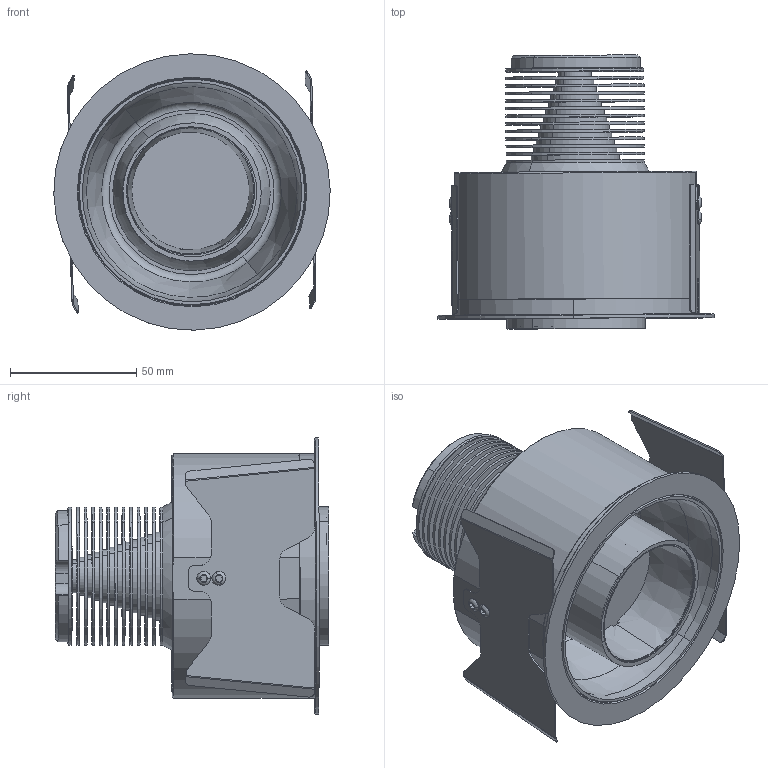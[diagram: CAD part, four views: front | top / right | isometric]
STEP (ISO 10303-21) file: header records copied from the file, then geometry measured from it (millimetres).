
FILE_DESCRIPTION (( 'STEP AP214' ), '1' );
FILE_NAME ('Saturno MR per BIM.STEP', '2024-02-05T07:46:48', ( '' ), ( '' ), 'SwSTEP 2.0', 'SolidWorks 2023', '' );
FILE_SCHEMA (( 'AUTOMOTIVE_DESIGN' ));
Length unit declared in the file: millimetre
Products named in the file (8): 105566--; Vite M3x3 TBEI; Saturno MR per BIM; 105297--REV B; 105565--; CORPO CENTRALE SATURNO RF-MR; 105509--; 105568--
Assembly tree (11 placements, depth 3):
  Saturno MR per BIM
    105568--
      105566--
      105509--  x2
      Vite M3x3 TBEI  x4
      105565--
    CORPO CENTRALE SATURNO RF-MR
    105297--REV B
Bounding box: 109.49 x 108.52 x 109.48 mm (x, y, z)
Volume: 337808.6 mm3; surface area: 167899.4 mm2
Topology: 10 solids, 10 shells, 396 faces, 917 edges, 580 vertices
Faces by surface type: cylinder 169, plane 166, cone 41, torus 20
Entity records: 8467 total; most frequent: DIRECTION 1539, CARTESIAN_POINT 1538, ORIENTED_EDGE 1288, EDGE_CURVE 644, AXIS2_PLACEMENT_3D 623, VERTEX_POINT 410, EDGE_LOOP 338, CIRCLE 325
